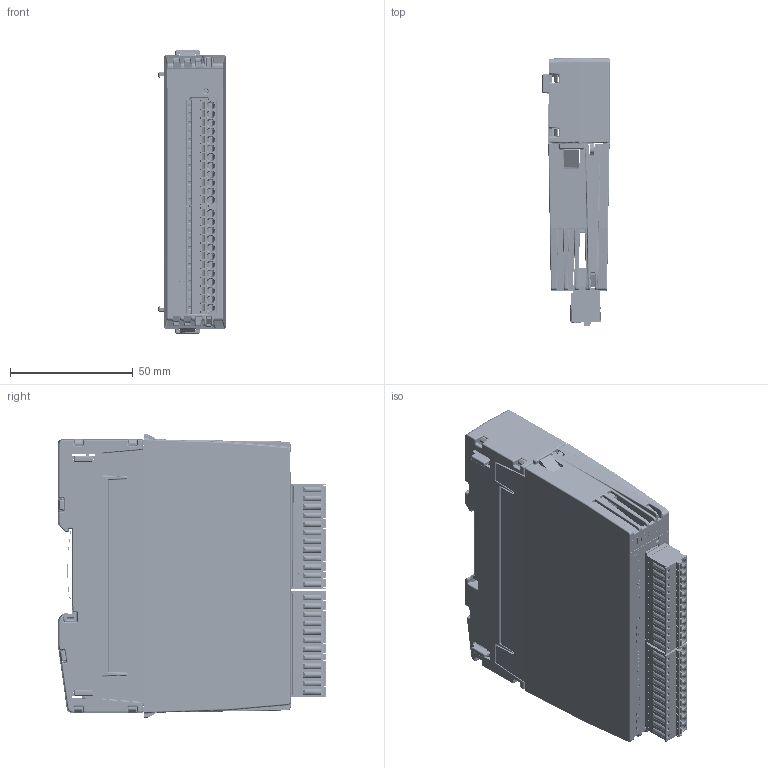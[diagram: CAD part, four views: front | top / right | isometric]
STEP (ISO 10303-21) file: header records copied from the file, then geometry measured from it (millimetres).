
FILE_DESCRIPTION(/* description */ (''),/* implementation_level */ '2;1');
FILE_NAME(/* name */ 'C:\Users\Public\Documents\Autodesk\Inventor 2023\DM20C_Simplified+BackBB21A.stp',/* time_stamp */ '2024-10-15T22:02:09+02:00',/* author */ ('shoma'),/* organization */ (''),/* preprocessor_version */ 'ST-DEVELOPER v19',/* originating_system */ 'Autodesk Inventor 2023',/* authorisation */ '');
FILE_SCHEMA (('AUTOMOTIVE_DESIGN { 1 0 10303 214 3 1 1 }'));
Products named in the file (1): DM20C_Simplified+BackBB21A
Bounding box: 27.4 x 109.39 x 115.5 mm (x, y, z)
Volume: 155135.4 mm3; surface area: 94474.3 mm2
Topology: 7 solids, 57 shells, 9489 faces, 25234 edges, 15918 vertices
Faces by surface type: plane 5755, cylinder 2404, bspline 886, cone 237, sphere 162, torus 45
Full cylindrical faces by diameter (mm): 0.296 x2, 0.3 x152, 0.457 x2, 0.7 x36, 0.8 x6, 0.85 x24, 0.9 x8, 1.17 x24, 1.2 x24, 1.25 x24, 1.3 x24, 1.4 x4, 1.6 x26, 2.35 x2, 2.5 x1, 3 x1, 3.1 x24, 3.25 x2
Entity records: 328189 total; most frequent: CARTESIAN_POINT 84027, ORIENTED_EDGE 50162, DIRECTION 46393, EDGE_CURVE 25081, LINE 17769, VECTOR 17769, VERTEX_POINT 15918, AXIS2_PLACEMENT_3D 14312
